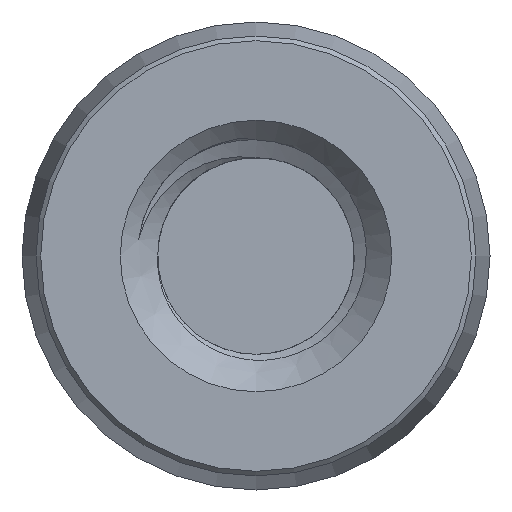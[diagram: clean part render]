
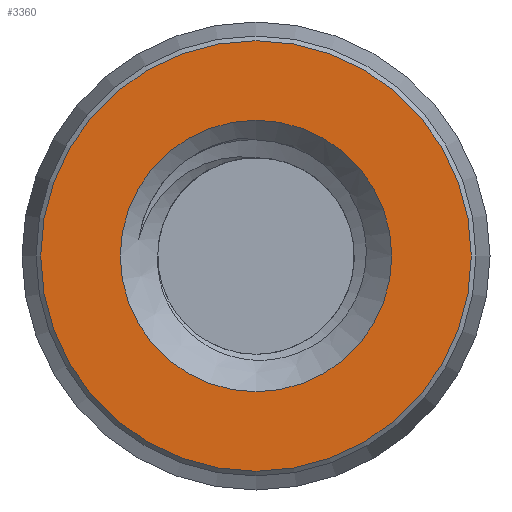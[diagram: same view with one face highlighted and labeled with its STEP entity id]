
A CAD part, front view. The second image highlights one B-rep face of the part: STEP entity #3360.
In plain terms, the highlighted planar face has unit normal (0, -1, 0).
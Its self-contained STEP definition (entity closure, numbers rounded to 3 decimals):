
#4 = ORIENTED_EDGE ( 'NONE', *, *, #2583, .T. ) ;
#135 = EDGE_LOOP ( 'NONE', ( #4 ) ) ;
#257 = AXIS2_PLACEMENT_3D ( 'NONE', #2744, #3634, #2478 ) ;
#308 = FACE_OUTER_BOUND ( 'NONE', #135, .T. ) ;
#1064 = DIRECTION ( 'NONE',  ( 0., 1., 0. ) ) ;
#1307 = FACE_BOUND ( 'NONE', #1724, .T. ) ;
#1688 = CARTESIAN_POINT ( 'NONE',  ( 0., 0., 0. ) ) ;
#1693 = PLANE ( 'NONE',  #2638 ) ;
#1724 = EDGE_LOOP ( 'NONE', ( #2048 ) ) ;
#2048 = ORIENTED_EDGE ( 'NONE', *, *, #3262, .T. ) ;
#2164 = CARTESIAN_POINT ( 'NONE',  ( 0., 0., 4.6 ) ) ;
#2248 = DIRECTION ( 'NONE',  ( 0., 0., 1. ) ) ;
#2478 = DIRECTION ( 'NONE',  ( 0., 0., 1. ) ) ;
#2519 = CARTESIAN_POINT ( 'NONE',  ( -4.7, 0., 0. ) ) ;
#2536 = DIRECTION ( 'NONE',  ( 0., -1., 0. ) ) ;
#2583 = EDGE_CURVE ( 'NONE', #3284, #3284, #3568, .T. ) ;
#2638 = AXIS2_PLACEMENT_3D ( 'NONE', #2519, #1064, #3718 ) ;
#2741 = CARTESIAN_POINT ( 'NONE',  ( 0., 0., 2.9 ) ) ;
#2744 = CARTESIAN_POINT ( 'NONE',  ( 0., 0., 0. ) ) ;
#2871 = AXIS2_PLACEMENT_3D ( 'NONE', #1688, #2536, #2248 ) ;
#3017 = VERTEX_POINT ( 'NONE', #2741 ) ;
#3262 = EDGE_CURVE ( 'NONE', #3017, #3017, #3293, .T. ) ;
#3284 = VERTEX_POINT ( 'NONE', #2164 ) ;
#3293 = CIRCLE ( 'NONE', #257, 2.9 ) ;
#3360 = ADVANCED_FACE ( 'NONE', ( #1307, #308 ), #1693, .F. ) ;
#3568 = CIRCLE ( 'NONE', #2871, 4.6 ) ;
#3634 = DIRECTION ( 'NONE',  ( 0., 1., 0. ) ) ;
#3718 = DIRECTION ( 'NONE',  ( 0., 0., 1. ) ) ;
